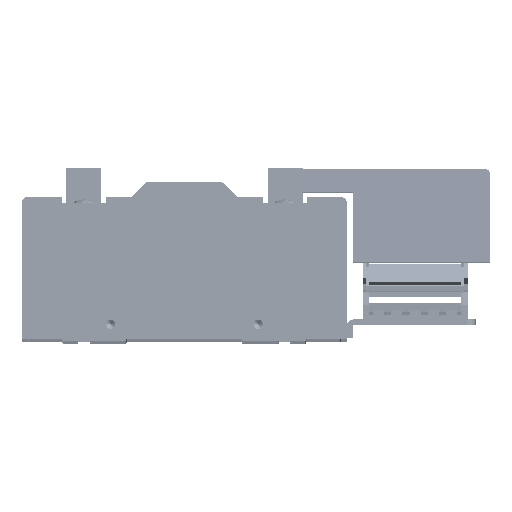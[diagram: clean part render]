
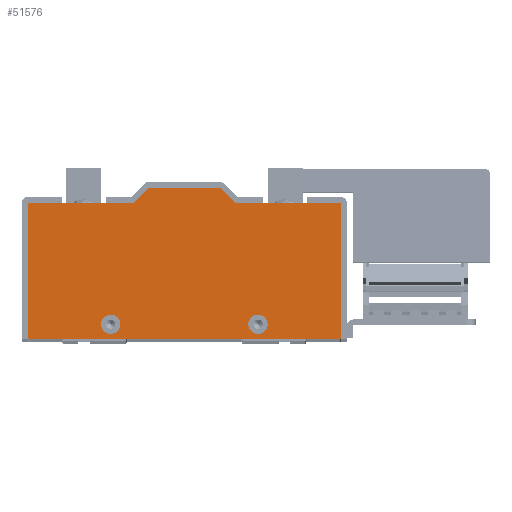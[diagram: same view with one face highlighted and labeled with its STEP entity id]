
A CAD part, top view. The second image highlights one B-rep face of the part: STEP entity #51576.
In plain terms, the highlighted planar face has unit normal (0, 0, 1).
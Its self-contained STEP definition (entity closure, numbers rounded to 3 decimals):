
#51573 = EDGE_CURVE ( 'NONE', #92008, #92018, #118360, .T. ) ;
#51576 = ADVANCED_FACE ( 'NONE', ( #119531, #119529, #119528 ), #119527, .T. ) ;
#51578 = EDGE_LOOP ( 'NONE', ( #51603, #51607 ) ) ;
#51603 = ORIENTED_EDGE ( 'NONE', *, *, #51604, .F. ) ;
#51604 = EDGE_CURVE ( 'NONE', #91978, #91534, #119503, .T. ) ;
#51607 = ORIENTED_EDGE ( 'NONE', *, *, #92048, .F. ) ;
#51608 = EDGE_LOOP ( 'NONE', ( #51610, #51615 ) ) ;
#51610 = ORIENTED_EDGE ( 'NONE', *, *, #51612, .F. ) ;
#51612 = EDGE_CURVE ( 'NONE', #91994, #92060, #119489, .T. ) ;
#51615 = ORIENTED_EDGE ( 'NONE', *, *, #92062, .F. ) ;
#51616 = EDGE_LOOP ( 'NONE', ( #51620, #51622, #51624, #51627, #51629, #51632, #51634, #51636 ) ) ;
#51620 = ORIENTED_EDGE ( 'NONE', *, *, #92017, .T. ) ;
#51622 = ORIENTED_EDGE ( 'NONE', *, *, #92031, .T. ) ;
#51624 = ORIENTED_EDGE ( 'NONE', *, *, #92026, .T. ) ;
#51627 = ORIENTED_EDGE ( 'NONE', *, *, #92126, .T. ) ;
#51629 = ORIENTED_EDGE ( 'NONE', *, *, #92088, .T. ) ;
#51632 = ORIENTED_EDGE ( 'NONE', *, *, #91999, .T. ) ;
#51634 = ORIENTED_EDGE ( 'NONE', *, *, #51724, .T. ) ;
#51636 = ORIENTED_EDGE ( 'NONE', *, *, #51573, .T. ) ;
#51724 = EDGE_CURVE ( 'NONE', #92146, #92008, #119707, .T. ) ;
#64234 = CARTESIAN_POINT ( 'NONE',  ( -34.75, -29., 9.525 ) ) ;
#64479 = CARTESIAN_POINT ( 'NONE',  ( -45.25, -29., 9.525 ) ) ;
#64574 = DIRECTION ( 'NONE',  ( -1., 0., 0. ) ) ;
#64575 = VECTOR ( 'NONE', #64574, 1000. ) ;
#64576 = CARTESIAN_POINT ( 'NONE',  ( -19.5, 45., 9.525 ) ) ;
#64577 = LINE ( 'NONE', #64576, #64575 ) ;
#64623 = CARTESIAN_POINT ( 'NONE',  ( -19.5, 45., 9.525 ) ) ;
#64629 = CARTESIAN_POINT ( 'NONE',  ( 85., 37., 9.525 ) ) ;
#64631 = DIRECTION ( 'NONE',  ( 1., 0., 0. ) ) ;
#64632 = DIRECTION ( 'NONE',  ( 0., 0., 1. ) ) ;
#64633 = CARTESIAN_POINT ( 'NONE',  ( -40., -29., 9.525 ) ) ;
#64634 = AXIS2_PLACEMENT_3D ( 'NONE', #64633, #64632, #64631 ) ;
#64635 = CIRCLE ( 'NONE', #64634, 5.25 ) ;
#64636 = CARTESIAN_POINT ( 'NONE',  ( 85., -37., 9.525 ) ) ;
#64643 = DIRECTION ( 'NONE',  ( 1., 0., 0. ) ) ;
#64644 = VECTOR ( 'NONE', #64643, 1000. ) ;
#64645 = CARTESIAN_POINT ( 'NONE',  ( -85., -37., 9.525 ) ) ;
#64646 = LINE ( 'NONE', #64645, #64644 ) ;
#64647 = CARTESIAN_POINT ( 'NONE',  ( 45.25, -29., 9.525 ) ) ;
#64661 = DIRECTION ( 'NONE',  ( -1., 0., 0. ) ) ;
#64662 = VECTOR ( 'NONE', #64661, 1000. ) ;
#64663 = CARTESIAN_POINT ( 'NONE',  ( 27.5, 37., 9.525 ) ) ;
#64664 = LINE ( 'NONE', #64663, #64662 ) ;
#64720 = DIRECTION ( 'NONE',  ( 1., 0., 0. ) ) ;
#64721 = DIRECTION ( 'NONE',  ( 0., 0., 1. ) ) ;
#64722 = CARTESIAN_POINT ( 'NONE',  ( 40., -29., 9.525 ) ) ;
#64723 = AXIS2_PLACEMENT_3D ( 'NONE', #64722, #64721, #64720 ) ;
#64724 = CIRCLE ( 'NONE', #64723, 5.25 ) ;
#64726 = CARTESIAN_POINT ( 'NONE',  ( 34.75, -29., 9.525 ) ) ;
#64748 = DIRECTION ( 'NONE',  ( -0.707, 0.707, 0. ) ) ;
#64749 = VECTOR ( 'NONE', #64748, 1000. ) ;
#64750 = CARTESIAN_POINT ( 'NONE',  ( 19.5, 45., 9.525 ) ) ;
#64751 = LINE ( 'NONE', #64750, #64749 ) ;
#64780 = DIRECTION ( 'NONE',  ( 0., 1., 0. ) ) ;
#64781 = VECTOR ( 'NONE', #64780, 1000. ) ;
#64782 = CARTESIAN_POINT ( 'NONE',  ( 85., 37., 9.525 ) ) ;
#64783 = LINE ( 'NONE', #64782, #64781 ) ;
#64793 = CARTESIAN_POINT ( 'NONE',  ( -85., 37., 9.525 ) ) ;
#64794 = DIRECTION ( 'NONE',  ( 0., -1., 0. ) ) ;
#64795 = VECTOR ( 'NONE', #64794, 1000. ) ;
#64796 = CARTESIAN_POINT ( 'NONE',  ( -85., 37., 9.525 ) ) ;
#64797 = LINE ( 'NONE', #64796, #64795 ) ;
#64798 = CARTESIAN_POINT ( 'NONE',  ( -85., -37., 9.525 ) ) ;
#64803 = CARTESIAN_POINT ( 'NONE',  ( -27.5, 37., 9.525 ) ) ;
#64827 = CARTESIAN_POINT ( 'NONE',  ( 27.5, 37., 9.525 ) ) ;
#64942 = CARTESIAN_POINT ( 'NONE',  ( 19.5, 45., 9.525 ) ) ;
#91534 = VERTEX_POINT ( 'NONE', #64479 ) ;
#91978 = VERTEX_POINT ( 'NONE', #64234 ) ;
#91994 = VERTEX_POINT ( 'NONE', #64647 ) ;
#91999 = EDGE_CURVE ( 'NONE', #92200, #92146, #64577, .T. ) ;
#92008 = VERTEX_POINT ( 'NONE', #64803 ) ;
#92015 = VERTEX_POINT ( 'NONE', #64798 ) ;
#92017 = EDGE_CURVE ( 'NONE', #92018, #92015, #64797, .T. ) ;
#92018 = VERTEX_POINT ( 'NONE', #64793 ) ;
#92026 = EDGE_CURVE ( 'NONE', #92046, #92050, #64783, .T. ) ;
#92031 = EDGE_CURVE ( 'NONE', #92015, #92046, #64646, .T. ) ;
#92046 = VERTEX_POINT ( 'NONE', #64636 ) ;
#92048 = EDGE_CURVE ( 'NONE', #91534, #91978, #64635, .T. ) ;
#92050 = VERTEX_POINT ( 'NONE', #64629 ) ;
#92060 = VERTEX_POINT ( 'NONE', #64726 ) ;
#92062 = EDGE_CURVE ( 'NONE', #92060, #91994, #64724, .T. ) ;
#92088 = EDGE_CURVE ( 'NONE', #92321, #92200, #64751, .T. ) ;
#92126 = EDGE_CURVE ( 'NONE', #92050, #92321, #64664, .T. ) ;
#92146 = VERTEX_POINT ( 'NONE', #64623 ) ;
#92200 = VERTEX_POINT ( 'NONE', #64942 ) ;
#92321 = VERTEX_POINT ( 'NONE', #64827 ) ;
#118360 = LINE ( 'NONE', #118883, #119538 ) ;
#118883 = CARTESIAN_POINT ( 'NONE',  ( -85., 37., 9.525 ) ) ;
#119484 = DIRECTION ( 'NONE',  ( 1., 0., 0. ) ) ;
#119485 = DIRECTION ( 'NONE',  ( 0., 0., 1. ) ) ;
#119487 = CARTESIAN_POINT ( 'NONE',  ( 40., -29., 9.525 ) ) ;
#119488 = AXIS2_PLACEMENT_3D ( 'NONE', #119487, #119485, #119484 ) ;
#119489 = CIRCLE ( 'NONE', #119488, 5.25 ) ;
#119499 = DIRECTION ( 'NONE',  ( 1., 0., 0. ) ) ;
#119500 = DIRECTION ( 'NONE',  ( 0., 0., 1. ) ) ;
#119501 = CARTESIAN_POINT ( 'NONE',  ( -40., -29., 9.525 ) ) ;
#119502 = AXIS2_PLACEMENT_3D ( 'NONE', #119501, #119500, #119499 ) ;
#119503 = CIRCLE ( 'NONE', #119502, 5.25 ) ;
#119510 = DIRECTION ( 'NONE',  ( 1., 0., 0. ) ) ;
#119511 = DIRECTION ( 'NONE',  ( 0., 0., 1. ) ) ;
#119512 = CARTESIAN_POINT ( 'NONE',  ( -85., 37., 9.525 ) ) ;
#119521 = AXIS2_PLACEMENT_3D ( 'NONE', #119512, #119511, #119510 ) ;
#119527 = PLANE ( 'NONE',  #119521 ) ;
#119528 = FACE_OUTER_BOUND ( 'NONE', #51616, .T. ) ;
#119529 = FACE_BOUND ( 'NONE', #51608, .T. ) ;
#119531 = FACE_BOUND ( 'NONE', #51578, .T. ) ;
#119534 = DIRECTION ( 'NONE',  ( -1., 0., 0. ) ) ;
#119538 = VECTOR ( 'NONE', #119534, 1000. ) ;
#119703 = DIRECTION ( 'NONE',  ( -0.707, -0.707, 0. ) ) ;
#119704 = VECTOR ( 'NONE', #119703, 1000. ) ;
#119706 = CARTESIAN_POINT ( 'NONE',  ( -27.5, 37., 9.525 ) ) ;
#119707 = LINE ( 'NONE', #119706, #119704 ) ;
